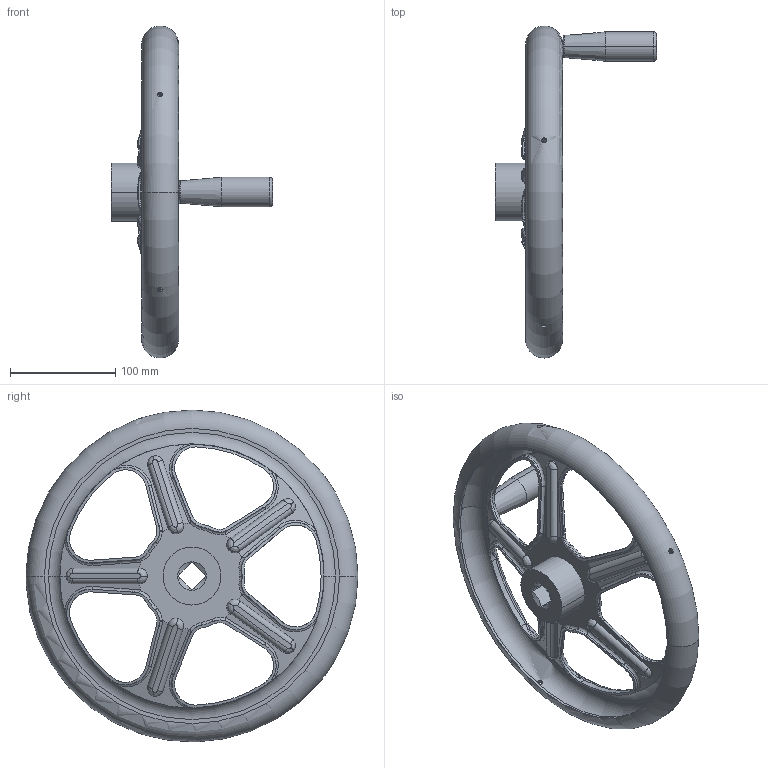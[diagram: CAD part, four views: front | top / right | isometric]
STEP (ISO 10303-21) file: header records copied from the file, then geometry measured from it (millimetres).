
FILE_DESCRIPTION (( 'STEP AP214' ), '1' );
FILE_NAME ('228-A4-315-V19-D-GS.step', '2021-02-01T13:44:05', ( '' ), ( '' ), 'SwSTEP 2.0', 'SolidWorks 2019', '' );
FILE_SCHEMA (( 'AUTOMOTIVE_DESIGN' ));
Length unit declared in the file: millimetre
Products named in the file (1): 228-A4-315-V19-D-GS
Bounding box: 153.5 x 314.98 x 314.95 mm (x, y, z)
Volume: 349447.4 mm3; surface area: 209584.3 mm2
Topology: 1 solids, 1 shells, 410 faces, 1080 edges, 661 vertices
Faces by surface type: cylinder 159, bspline 90, torus 60, plane 60, cone 21, sphere 20
Entity records: 20124 total; most frequent: CARTESIAN_POINT 10851, ORIENTED_EDGE 2124, DIRECTION 1691, EDGE_CURVE 1062, AXIS2_PLACEMENT_3D 730, VERTEX_POINT 652, EDGE_LOOP 428, CIRCLE 410
